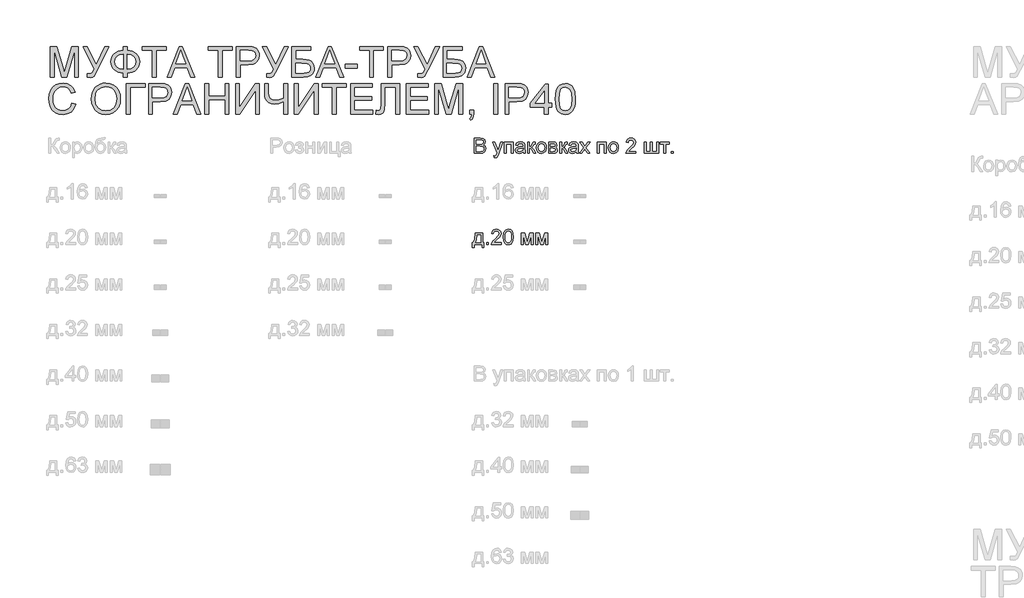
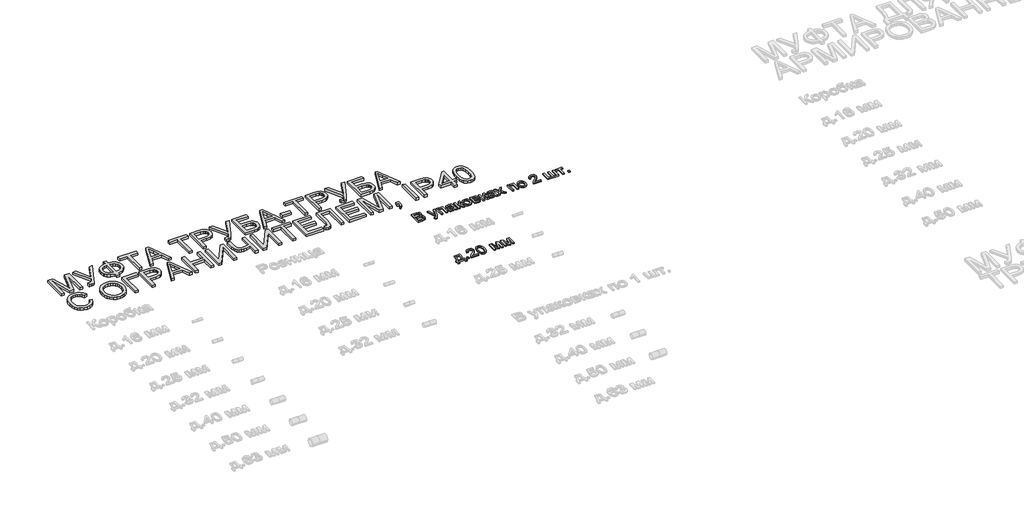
# One storey, part 86 of 98: 3 proxies.
"""IFC4 building model written with IfcOpenShell, lengths in millimetres."""

from ifc_helpers import new_model, si_unit, origin, origin_with_axes, place, context, project, spatial, polyline, outline, extrude, element, save

model = new_model("IFC4")

# Units and contexts
model_context = context("Model", 3, world=origin())
ifc_project = project(units=[si_unit("LENGTHUNIT", "METRE", prefix="MILLI")], contexts=[model_context])

# Site, building, storey
site = spatial("IfcSite", under=ifc_project)
building = spatial("IfcBuilding", under=site)
storey = spatial("IfcBuildingStorey", under=building, Name="Этаж 01", Elevation=0.0)

# Proxies
placement = place(None, origin())
element("IfcBuildingElementProxy", 1, Name="100", ObjectType="100", at=placement, inside=storey, context=model_context, shape_type="SweptSolid", body=[
    extrude(outline(polyline([(11149.7389883, -15339.5121665), (11149.7389883, -15239.0558563), (11188.0722922, -15239.0558563), (11206.8465367, -15242.011175), (11217.9320475, -15251.0978603), (11221.9419613, -15263.9492046), (11218.5697096, -15275.6846403), (11208.3793784, -15284.5751218), (11220.7524761, -15293.94385), (11225.081221, -15309.5665721), (11222.1259023, -15323.0678413), (11214.8050506, -15332.6818241), (11203.8789553, -15337.7831211), (11187.7779866, -15339.5121665), (11149.7389883, -15339.5121665)]), holes=[polyline([(11162.2960271, -15279.8662323), (11185.2273381, -15279.8662323), (11198.6182428, -15278.7871118), (11206.6748585, -15274.1395359), (11209.3849225, -15265.9602929), (11206.8587995, -15257.7687871), (11199.6237869, -15252.9250075), (11183.48603, -15251.6128951), (11162.2960271, -15251.6128951), (11162.2960271, -15279.8662323)]), polyline([(11162.2960271, -15326.9551277), (11188.0477668, -15326.9551277), (11197.367444, -15326.4646184), (11205.2523814, -15323.7300289), (11210.4763057, -15318.1504853), (11212.5241822, -15309.6891994), (11210.1206865, -15299.9280638), (11202.3338509, -15294.1032655), (11186.8214935, -15292.4232711), (11162.2960271, -15292.4232711), (11162.2960271, -15326.9551277)])]), origin_with_axes(), (0.0, 0.0, 1.0), 10.0),
    extrude(outline(polyline([(11280.0182656, -15367.7655037), (11278.4486357, -15355.6744488), (11284.825257, -15356.7780948), (11290.7849453, -15355.3924059), (11294.4392398, -15351.529645), (11297.8728051, -15342.2835442), (11298.8538237, -15339.2423863), (11272.1701163, -15265.7395637), (11285.4138682, -15265.7395637), (11299.5650622, -15306.6970925), (11304.494681, -15323.080104), (11309.4242997, -15308.6100789), (11323.9679013, -15265.7395637), (11337.1135512, -15265.7395637), (11311.435388, -15341.278), (11304.7644611, -15357.6610116), (11297.4803976, -15366.5147049), (11287.6947365, -15369.3351335), (11280.0182656, -15367.7655037)])), origin_with_axes(), (0.0, 0.0, 1.0), 10.0),
    extrude(outline(polyline([(11347.512349, -15265.7395637), (11404.0190234, -15265.7395637), (11404.0190234, -15339.5121665), (11391.4619846, -15339.5121665), (11391.4619846, -15278.2966025), (11360.0693877, -15278.2966025), (11360.0693877, -15339.5121665), (11347.512349, -15339.5121665), (11347.512349, -15265.7395637)])), origin_with_axes(), (0.0, 0.0, 1.0), 10.0),
    extrude(outline(polyline([(11469.9434769, -15330.0943874), (11457.7665829, -15338.6047242), (11444.3143646, -15341.0817963), (11433.8205307, -15339.5918742), (11426.0796804, -15335.122108), (11421.3064115, -15328.3346852), (11419.7153219, -15319.8917934), (11422.1188176, -15309.9589795), (11428.4341252, -15302.7484924), (11437.2265048, -15298.6282141), (11448.0912864, -15296.7397532), (11469.8699005, -15292.4232711), (11469.9434769, -15289.6273679), (11466.4853862, -15280.3567416), (11452.6039722, -15276.7269726), (11439.8997807, -15279.1427311), (11433.8419905, -15287.7143815), (11421.2849517, -15286.1447517), (11426.7173425, -15273.8820185), (11437.6557005, -15266.6960569), (11454.222653, -15264.1699338), (11469.4407049, -15266.4017513), (11478.0368808, -15272.0058203), (11481.8873791, -15280.5284199), (11482.5005157, -15291.5158288), (11482.5005157, -15307.1385509), (11483.1381778, -15328.9539532), (11485.6397754, -15339.5121665), (11473.0827366, -15339.5121665), (11469.9434769, -15330.0943874)]), holes=[polyline([(11469.9434769, -15304.9803098), (11449.6854417, -15308.8308081), (11438.8819738, -15310.8664218), (11433.9891433, -15314.1773597), (11432.2723606, -15319.0088766), (11436.0124943, -15325.8024308), (11446.9876404, -15328.5247575), (11459.691832, -15325.5203879), (11467.8833378, -15318.2485871), (11469.8699005, -15308.5365025), (11469.9434769, -15304.9803098)])]), origin_with_axes(), (0.0, 0.0, 1.0), 10.0),
    extrude(outline(polyline([(11499.766444, -15265.7395637), (11512.3234828, -15265.7395637), (11512.3234828, -15297.1321606), (11520.7357177, -15294.8758177), (11527.6273738, -15281.7301677), (11533.3540702, -15270.3871396), (11538.4063162, -15266.6960569), (11547.5911034, -15265.7395637), (11549.9945991, -15265.7395637), (11549.9945991, -15278.3701789), (11546.6100847, -15278.2966025), (11540.4787182, -15279.6209776), (11536.1622361, -15287.8860598), (11531.0977273, -15296.8255923), (11523.9976048, -15301.203388), (11531.9193304, -15306.0900872), (11539.6939032, -15316.3846517), (11553.1338588, -15339.5121665), (11538.8600374, -15339.5121665), (11525.6898619, -15316.875161), (11519.067986, -15307.2979664), (11512.3234828, -15304.9803098), (11512.3234828, -15339.5121665), (11499.766444, -15339.5121665), (11499.766444, -15265.7395637)])), origin_with_axes(), (0.0, 0.0, 1.0), 10.0),
    extrude(outline(polyline([(11557.8427483, -15302.6258651), (11560.5589437, -15284.8387706), (11568.7075299, -15272.3369141), (11578.7752339, -15266.2116789), (11590.8295006, -15264.1699338), (11604.0211358, -15266.656203), (11614.5578892, -15274.1150104), (11621.4648737, -15285.957745), (11623.7672019, -15301.5957955), (11619.6959744, -15323.9384953), (11607.8379115, -15336.5813732), (11590.8295006, -15341.0817963), (11577.4784498, -15338.6047242), (11566.9539591, -15331.1735079), (11560.120551, -15319.082453), (11557.8427483, -15302.6258651)]), holes=[polyline([(11570.3997871, -15302.6013396), (11571.852921, -15313.9658276), (11576.2123226, -15322.0622972), (11582.7728849, -15326.9091424), (11590.8295006, -15328.5247575), (11598.8493281, -15326.8999454), (11605.3976276, -15322.025509), (11609.7570292, -15313.8217405), (11611.2101631, -15302.2089321), (11609.7478322, -15291.175538), (11605.3608394, -15283.189433), (11598.8033428, -15278.3425877), (11590.8295006, -15276.7269726), (11582.7728849, -15278.3364563), (11576.2123226, -15283.1649075), (11571.852921, -15291.242983), (11570.3997871, -15302.6013396)])]), origin_with_axes(), (0.0, 0.0, 1.0), 10.0),
    extrude(outline(polyline([(11637.8938705, -15265.7395637), (11665.5585965, -15265.7395637), (11680.7275974, -15267.4195581), (11689.2624597, -15273.5754502), (11692.8309151, -15284.3053417), (11690.6726741, -15293.024145), (11684.1734255, -15299.2413507), (11692.6101859, -15306.0471676), (11695.9701748, -15317.8807051), (11693.8425906, -15327.4517684), (11688.7842131, -15334.1901403), (11680.7766484, -15338.1816599), (11669.8015022, -15339.5121665), (11637.8938705, -15339.5121665), (11637.8938705, -15265.7395637)]), holes=[polyline([(11650.4509092, -15293.9929009), (11662.8607952, -15293.9929009), (11673.1001774, -15293.3552388), (11678.0788471, -15290.8045903), (11680.2738763, -15286.1938026), (11676.4233781, -15280.0379106), (11663.2532027, -15278.2966025), (11650.4509092, -15278.2966025), (11650.4509092, -15293.9929009)]), polyline([(11650.4509092, -15326.9551277), (11665.8529021, -15326.9551277), (11679.5135869, -15324.6865221), (11683.413136, -15316.8506356), (11681.2671577, -15310.8051081), (11675.6753514, -15307.2857037), (11664.6266288, -15306.5499397), (11650.4509092, -15306.5499397), (11650.4509092, -15326.9551277)])]), origin_with_axes(), (0.0, 0.0, 1.0), 10.0),
    extrude(outline(polyline([(11711.6664732, -15265.7395637), (11724.223512, -15265.7395637), (11724.223512, -15297.1321606), (11732.635747, -15294.8758177), (11739.527403, -15281.7301677), (11745.2540994, -15270.3871396), (11750.3063455, -15266.6960569), (11759.4911326, -15265.7395637), (11761.8946283, -15265.7395637), (11761.8946283, -15278.3701789), (11758.510114, -15278.2966025), (11752.3787474, -15279.6209776), (11748.0622653, -15287.8860598), (11742.9977565, -15296.8255923), (11735.897634, -15301.203388), (11743.8193596, -15306.0900872), (11751.5939325, -15316.3846517), (11765.033888, -15339.5121665), (11750.7600666, -15339.5121665), (11737.5898912, -15316.875161), (11730.9680153, -15307.2979664), (11724.223512, -15304.9803098), (11724.223512, -15339.5121665), (11711.6664732, -15339.5121665), (11711.6664732, -15265.7395637)])), origin_with_axes(), (0.0, 0.0, 1.0), 10.0),
    extrude(outline(polyline([(11819.9709326, -15330.0943874), (11807.7940386, -15338.6047242), (11794.3418203, -15341.0817963), (11783.8479864, -15339.5918742), (11776.1071361, -15335.122108), (11771.3338672, -15328.3346852), (11769.7427775, -15319.8917934), (11772.1462733, -15309.9589795), (11778.4615808, -15302.7484924), (11787.2539605, -15298.6282141), (11798.1187421, -15296.7397532), (11819.8973562, -15292.4232711), (11819.9709326, -15289.6273679), (11816.5128419, -15280.3567416), (11802.6314279, -15276.7269726), (11789.9272364, -15279.1427311), (11783.8694462, -15287.7143815), (11771.3124074, -15286.1447517), (11776.7447982, -15273.8820185), (11787.6831562, -15266.6960569), (11804.2501087, -15264.1699338), (11819.4681606, -15266.4017513), (11828.0643365, -15272.0058203), (11831.9148347, -15280.5284199), (11832.5279714, -15291.5158288), (11832.5279714, -15307.1385509), (11833.1656335, -15328.9539532), (11835.6672311, -15339.5121665), (11823.1101923, -15339.5121665), (11819.9709326, -15330.0943874)]), holes=[polyline([(11819.9709326, -15304.9803098), (11799.7128974, -15308.8308081), (11788.9094295, -15310.8664218), (11784.016599, -15314.1773597), (11782.2998163, -15319.0088766), (11786.0399499, -15325.8024308), (11797.0150961, -15328.5247575), (11809.7192877, -15325.5203879), (11817.9107935, -15318.2485871), (11819.8973562, -15308.5365025), (11819.9709326, -15304.9803098)])]), origin_with_axes(), (0.0, 0.0, 1.0), 10.0),
    extrude(outline(polyline([(11841.9457505, -15339.5121665), (11868.7766107, -15302.4296613), (11843.5153803, -15265.7395637), (11858.6230676, -15265.7395637), (11870.8122244, -15283.3978995), (11876.5021325, -15291.736558), (11881.4317513, -15284.9184784), (11895.3131652, -15265.7395637), (11910.4208525, -15265.7395637), (11883.8842979, -15302.4296613), (11909.4398339, -15339.5121665), (11894.3321466, -15339.5121665), (11878.9546792, -15317.2185176), (11876.1342506, -15313.1472901), (11857.0534377, -15339.5121665), (11841.9457505, -15339.5121665)])), origin_with_axes(), (0.0, 0.0, 1.0), 10.0),
    extrude(outline(polyline([(11959.6679889, -15265.7395637), (12016.1746634, -15265.7395637), (12016.1746634, -15339.5121665), (12003.6176246, -15339.5121665), (12003.6176246, -15278.2966025), (11972.2250277, -15278.2966025), (11972.2250277, -15339.5121665), (11959.6679889, -15339.5121665), (11959.6679889, -15265.7395637)])), origin_with_axes(), (0.0, 0.0, 1.0), 10.0),
    extrude(outline(polyline([(12031.8709618, -15302.6258651), (12034.5871572, -15284.8387706), (12042.7357434, -15272.3369141), (12052.8034474, -15266.2116789), (12064.8577141, -15264.1699338), (12078.0493493, -15266.656203), (12088.5861028, -15274.1150104), (12095.4930872, -15285.957745), (12097.7954154, -15301.5957955), (12093.724188, -15323.9384953), (12081.866125, -15336.5813732), (12064.8577141, -15341.0817963), (12051.5066633, -15338.6047242), (12040.9821726, -15331.1735079), (12034.1487645, -15319.082453), (12031.8709618, -15302.6258651)]), holes=[polyline([(12044.4280006, -15302.6013396), (12045.8811345, -15313.9658276), (12050.2405361, -15322.0622972), (12056.8010984, -15326.9091424), (12064.8577141, -15328.5247575), (12072.8775416, -15326.8999454), (12079.4258411, -15322.025509), (12083.7852427, -15313.8217405), (12085.2383766, -15302.2089321), (12083.7760457, -15291.175538), (12079.3890529, -15283.189433), (12072.8315563, -15278.3425877), (12064.8577141, -15276.7269726), (12056.8010984, -15278.3364563), (12050.2405361, -15283.1649075), (12045.8811345, -15291.242983), (12044.4280006, -15302.6013396)])]), origin_with_axes(), (0.0, 0.0, 1.0), 10.0),
    extrude(outline(polyline([(12212.3783941, -15326.9551277), (12212.3783941, -15339.5121665), (12146.4539406, -15339.5121665), (12147.8028413, -15330.8546768), (12155.4302613, -15317.5250859), (12171.1510852, -15302.9692216), (12192.8315975, -15282.0489988), (12198.2517255, -15267.8242283), (12193.1381658, -15256.3095219), (12179.7840494, -15251.6128951), (12165.8658472, -15256.1991573), (12160.5806092, -15268.8788234), (12148.0235705, -15267.3091935), (12151.067794, -15255.1629563), (12157.649816, -15246.2908689), (12167.42628, -15240.8646095), (12180.0538295, -15239.0558563), (12192.7733495, -15241.0669445), (12202.5314194, -15247.1002093), (12208.7394281, -15256.1133182), (12210.8087643, -15267.0639389), (12208.5769469, -15278.9710528), (12201.1579933, -15291.2828369), (12183.1685637, -15308.4874515), (12168.7230641, -15320.5662437), (12163.0576813, -15326.9551277), (12212.3783941, -15326.9551277)])), origin_with_axes(), (0.0, 0.0, 1.0), 10.0),
    extrude(outline(polyline([(12267.3154388, -15265.7395637), (12279.8724775, -15265.7395637), (12279.8724775, -15326.9551277), (12308.1258148, -15326.9551277), (12308.1258148, -15265.7395637), (12320.6828535, -15265.7395637), (12320.6828535, -15326.9551277), (12348.9361908, -15326.9551277), (12348.9361908, -15265.7395637), (12361.4932295, -15265.7395637), (12361.4932295, -15339.5121665), (12267.3154388, -15339.5121665), (12267.3154388, -15265.7395637)])), origin_with_axes(), (0.0, 0.0, 1.0), 10.0),
    extrude(outline(polyline([(12372.4806384, -15265.7395637), (12432.1265726, -15265.7395637), (12432.1265726, -15278.2966025), (12408.5821249, -15278.2966025), (12408.5821249, -15339.5121665), (12396.0250861, -15339.5121665), (12396.0250861, -15278.2966025), (12372.4806384, -15278.2966025), (12372.4806384, -15265.7395637)])), origin_with_axes(), (0.0, 0.0, 1.0), 10.0),
    extrude(outline(polyline([(12446.2532412, -15339.5121665), (12446.2532412, -15326.9551277), (12458.81028, -15326.9551277), (12458.81028, -15339.5121665), (12446.2532412, -15339.5121665)])), origin_with_axes(), (0.0, 0.0, 1.0), 10.0),
])
element("IfcBuildingElementProxy", 2, Name="100", ObjectType="100", at=placement, inside=storey, context=model_context, shape_type="SweptSolid", body=[
    extrude(outline(polyline([(11156.3281893, -15865.7395637), (11203.4170847, -15865.7395637), (11203.4170847, -15926.9551277), (11212.8348638, -15926.9551277), (11212.8348638, -15959.9173545), (11200.277825, -15959.9173545), (11200.277825, -15939.5121665), (11148.4800401, -15939.5121665), (11148.4800401, -15959.9173545), (11135.9230013, -15959.9173545), (11135.9230013, -15926.9551277), (11143.7711505, -15926.9551277), (11153.4709725, -15903.0060098), (11156.3281893, -15865.7395637)]), holes=[polyline([(11167.3155982, -15878.2966025), (11164.3725423, -15906.905559), (11157.8978192, -15926.9551277), (11190.8600459, -15926.9551277), (11190.8600459, -15878.2966025), (11167.3155982, -15878.2966025)])]), origin_with_axes(), (0.0, 0.0, 1.0), 10.0),
    extrude(outline(polyline([(11230.1007921, -15939.5121665), (11230.1007921, -15926.9551277), (11242.6578308, -15926.9551277), (11242.6578308, -15939.5121665), (11230.1007921, -15939.5121665)])), origin_with_axes(), (0.0, 0.0, 1.0), 10.0),
    extrude(outline(polyline([(11327.4178425, -15926.9551277), (11327.4178425, -15939.5121665), (11261.493389, -15939.5121665), (11262.8422896, -15930.8546768), (11270.4697097, -15917.5250859), (11286.1905336, -15902.9692216), (11307.8710459, -15882.0489988), (11313.2911739, -15867.8242283), (11308.1776142, -15856.3095219), (11294.8234978, -15851.6128951), (11280.9052956, -15856.1991573), (11275.6200576, -15868.8788234), (11263.0630188, -15867.3091935), (11266.1072424, -15855.1629563), (11272.6892644, -15846.2908689), (11282.4657284, -15840.8646095), (11295.0932779, -15839.0558563), (11307.8127979, -15841.0669445), (11317.5708678, -15847.1002093), (11323.7788765, -15856.1133182), (11325.8482127, -15867.0639389), (11323.6163953, -15878.9710528), (11316.1974417, -15891.2828369), (11298.2080121, -15908.4874515), (11283.7625124, -15920.5662437), (11278.0971297, -15926.9551277), (11327.4178425, -15926.9551277)])), origin_with_axes(), (0.0, 0.0, 1.0), 10.0),
    extrude(outline(polyline([(11339.9748813, -15890.0933518), (11343.665964, -15861.1900897), (11354.6288474, -15844.5250353), (11372.9371081, -15839.0558563), (11387.6033369, -15842.2932179), (11397.7323545, -15851.6251578), (11403.6184665, -15866.4875904), (11405.8993348, -15890.0933518), (11402.2450404, -15918.8739865), (11391.3189451, -15935.5758291), (11383.0875855, -15939.7053045), (11372.9371081, -15941.0817963), (11359.88956, -15938.6905633), (11349.9812716, -15931.5168644), (11342.4764789, -15914.5268476), (11339.9748813, -15890.0933518)]), holes=[polyline([(11352.5319201, -15890.0688263), (11354.0034481, -15909.8210238), (11358.418032, -15921.2529568), (11364.990857, -15926.7068073), (11372.9371081, -15928.5247575), (11380.8833592, -15926.700676), (11387.4561841, -15921.2284313), (11391.8707681, -15909.7903669), (11393.3422961, -15890.0688263), (11391.919819, -15870.7611529), (11387.6523879, -15859.2403151), (11381.0918256, -15853.5197501), (11372.7899553, -15851.6128951), (11364.9295433, -15853.2928895), (11358.6142357, -15858.3328729), (11354.052499, -15870.5710806), (11352.5319201, -15890.0688263)])]), origin_with_axes(), (0.0, 0.0, 1.0), 10.0),
    extrude(outline(polyline([(11459.2667496, -15865.7395637), (11480.8736855, -15865.7395637), (11497.5264771, -15924.7968867), (11515.4791185, -15865.7395637), (11536.1786121, -15865.7395637), (11536.1786121, -15939.5121665), (11523.6215733, -15939.5121665), (11523.6215733, -15880.111487), (11505.5708301, -15939.5121665), (11489.0897167, -15939.5121665), (11471.8237884, -15877.2665329), (11471.8237884, -15939.5121665), (11459.2667496, -15939.5121665), (11459.2667496, -15865.7395637)])), origin_with_axes(), (0.0, 0.0, 1.0), 10.0),
    extrude(outline(polyline([(11555.0141702, -15865.7395637), (11576.6211061, -15865.7395637), (11593.2738977, -15924.7968867), (11611.2265391, -15865.7395637), (11631.9260327, -15865.7395637), (11631.9260327, -15939.5121665), (11619.3689939, -15939.5121665), (11619.3689939, -15880.111487), (11601.3182507, -15939.5121665), (11584.8371373, -15939.5121665), (11567.571209, -15877.2665329), (11567.571209, -15939.5121665), (11555.0141702, -15939.5121665), (11555.0141702, -15865.7395637)])), origin_with_axes(), (0.0, 0.0, 1.0), 10.0),
])
element("IfcBuildingElementProxy", 3, Name="200", ObjectType="200", at=placement, inside=storey, context=model_context, shape_type="SweptSolid", body=[
    extrude(outline(polyline([(8360.7263973, -14837.5373486), (8360.7263973, -14636.6247283), (8403.940269, -14636.6247283), (8445.0449506, -14778.234771), (8453.3345582, -14807.8124834), (8462.3108789, -14775.7822244), (8502.7288474, -14636.6247283), (8545.9427191, -14636.6247283), (8545.9427191, -14837.5373486), (8520.8286416, -14837.5373486), (8520.8286416, -14661.7388059), (8470.3552318, -14837.5373486), (8436.3138845, -14837.5373486), (8385.8404748, -14661.7388059), (8385.8404748, -14837.5373486), (8360.7263973, -14837.5373486)])), origin_with_axes(), (0.0, 0.0, 1.0), 20.0),
    extrude(outline(polyline([(8575.7656862, -14636.6247283), (8603.577565, -14636.6247283), (8663.6649576, -14755.622291), (8717.7190854, -14636.6247283), (8745.2857096, -14636.6247283), (8669.0115092, -14793.1462545), (8648.2629647, -14831.6021858), (8638.41599, -14838.4080027), (8625.0618735, -14840.6766083), (8602.4493936, -14837.5373486), (8602.4493936, -14815.5625308), (8622.2169194, -14815.5625308), (8636.8831483, -14809.9707244), (8650.4702567, -14784.5132904), (8575.7656862, -14636.6247283)])), origin_with_axes(), (0.0, 0.0, 1.0), 20.0),
    extrude(outline(polyline([(8841.0331302, -14661.7388059), (8841.0331302, -14636.6247283), (8866.1472077, -14636.6247283), (8866.1472077, -14661.7388059), (8899.9862199, -14668.53236), (8925.8667183, -14684.7927442), (8942.2926493, -14708.3494546), (8947.7679597, -14737.0319875), (8942.4643276, -14765.2485366), (8926.5534313, -14788.8788234), (8914.8225942, -14798.3517848), (8900.8446112, -14805.4335132), (8866.1472077, -14812.4232711), (8866.1472077, -14837.5373486), (8841.0331302, -14837.5373486), (8841.0331302, -14812.4232711), (8808.9415575, -14806.3102986), (8782.7115712, -14790.7182334), (8772.5181743, -14779.7384886), (8765.2371764, -14767.1308661), (8759.4123782, -14737.0319875), (8765.2187823, -14706.8411385), (8772.4767875, -14694.2657056), (8782.6379948, -14683.3702672), (8808.849587, -14667.9069606), (8841.0331302, -14661.7388059)]), holes=[polyline([(8841.0331302, -14686.8528834), (8818.1815269, -14690.8750599), (8800.1491778, -14700.8814501), (8788.4321362, -14716.4305958), (8784.5264557, -14737.0810385), (8788.3830853, -14757.578197), (8799.952974, -14773.1579995), (8817.9362722, -14783.2563602), (8841.0331302, -14787.3091935), (8841.0331302, -14686.8528834)]), polyline([(8866.1472077, -14686.8528834), (8866.1472077, -14787.3091935), (8889.6426045, -14783.1582584), (8907.5461949, -14773.0598976), (8918.8769603, -14757.529146), (8922.6538822, -14737.0810385), (8918.9444054, -14716.9088424), (8907.815975, -14701.4210104), (8889.9798296, -14691.2061537), (8866.1472077, -14686.8528834)])]), origin_with_axes(), (0.0, 0.0, 1.0), 20.0),
    extrude(outline(polyline([(9032.5279714, -14837.5373486), (9032.5279714, -14661.7388059), (8966.6035179, -14661.7388059), (8966.6035179, -14636.6247283), (9123.5665025, -14636.6247283), (9123.5665025, -14661.7388059), (9057.6420489, -14661.7388059), (9057.6420489, -14837.5373486), (9032.5279714, -14837.5373486)])), origin_with_axes(), (0.0, 0.0, 1.0), 20.0),
    extrude(outline(polyline([(9128.4225448, -14837.5373486), (9208.6208198, -14636.6247283), (9230.0070264, -14636.6247283), (9310.2053014, -14837.5373486), (9283.6687468, -14837.5373486), (9260.6638593, -14774.7521548), (9177.9149359, -14774.7521548), (9154.9590994, -14837.5373486), (9128.4225448, -14837.5373486)]), holes=[polyline([(9187.1365112, -14749.6380772), (9251.4913349, -14749.6380772), (9233.3915408, -14700.243788), (9219.3139231, -14661.7388059), (9206.8059352, -14695.9273059), (9187.1365112, -14749.6380772)])]), origin_with_axes(), (0.0, 0.0, 1.0), 20.0),
    extrude(outline(polyline([(9465.7458089, -14837.5373486), (9465.7458089, -14661.7388059), (9399.8213554, -14661.7388059), (9399.8213554, -14636.6247283), (9556.78434, -14636.6247283), (9556.78434, -14661.7388059), (9490.8598864, -14661.7388059), (9490.8598864, -14837.5373486), (9465.7458089, -14837.5373486)])), origin_with_axes(), (0.0, 0.0, 1.0), 20.0),
    extrude(outline(polyline([(9585.0376772, -14837.5373486), (9585.0376772, -14636.6247283), (9659.496993, -14636.6247283), (9689.5161638, -14638.5377147), (9713.9190029, -14647.9309683), (9722.7910903, -14656.2573641), (9729.7379287, -14667.3551376), (9734.226089, -14680.4456053), (9735.7221424, -14694.7500836), (9731.6815719, -14718.4294213), (9719.5598601, -14738.160159), (9709.852374, -14745.9286004), (9696.8921978, -14751.4774872), (9661.2137757, -14755.9165966), (9610.1517548, -14755.9165966), (9610.1517548, -14837.5373486), (9585.0376772, -14837.5373486)]), holes=[polyline([(9610.1517548, -14730.8025191), (9662.6853037, -14730.8025191), (9684.9544271, -14728.4971252), (9699.6697069, -14721.5809437), (9707.8734754, -14710.4831702), (9710.6080649, -14695.6330003), (9708.9955155, -14684.3512858), (9704.1578673, -14674.8354049), (9696.6959941, -14667.6739687), (9687.21077, -14663.4555885), (9662.0966925, -14661.7388059), (9610.1517548, -14661.7388059), (9610.1517548, -14730.8025191)])]), origin_with_axes(), (0.0, 0.0, 1.0), 20.0),
    extrude(outline(polyline([(9756.1273304, -14636.6247283), (9783.9392093, -14636.6247283), (9844.0266018, -14755.622291), (9898.0807296, -14636.6247283), (9925.6473538, -14636.6247283), (9849.3731535, -14793.1462545), (9828.624609, -14831.6021858), (9818.7776342, -14838.4080027), (9805.4235178, -14840.6766083), (9782.8110378, -14837.5373486), (9782.8110378, -14815.5625308), (9802.5785637, -14815.5625308), (9817.2447926, -14809.9707244), (9830.8319009, -14784.5132904), (9756.1273304, -14636.6247283)])), origin_with_axes(), (0.0, 0.0, 1.0), 20.0),
    extrude(outline(polyline([(9949.1918015, -14636.6247283), (10074.7621892, -14636.6247283), (10074.7621892, -14661.7388059), (9974.305879, -14661.7388059), (9974.305879, -14721.38474), (10021.3457235, -14721.38474), (10044.7307557, -14722.6600643), (10062.7937616, -14726.486037), (10076.6629128, -14733.8559396), (10087.4663808, -14745.7630535), (10094.4193505, -14761.09147), (10096.737007, -14778.7252803), (10095.0876694, -14793.5325306), (10090.1396566, -14807.3464995), (10081.917494, -14819.4436858), (10070.4457071, -14829.1005882), (10052.7505831, -14835.4281585), (10025.8584093, -14837.5373486), (9949.1918015, -14837.5373486), (9949.1918015, -14636.6247283)]), holes=[polyline([(9974.305879, -14812.4232711), (10028.1147522, -14812.4232711), (10047.1342514, -14810.3508692), (10060.7336224, -14804.1336635), (10068.9006027, -14793.7716539), (10071.6229295, -14779.2648406), (10070.0655624, -14768.4613727), (10065.3934611, -14759.5954166), (10057.9438506, -14753.0225916), (10048.0539563, -14749.098517), (10010.2111618, -14746.4988175), (9974.305879, -14746.4988175), (9974.305879, -14812.4232711)])]), origin_with_axes(), (0.0, 0.0, 1.0), 20.0),
    extrude(outline(polyline([(10107.8715688, -14837.5373486), (10188.0698437, -14636.6247283), (10209.4560504, -14636.6247283), (10289.6543253, -14837.5373486), (10263.1177707, -14837.5373486), (10240.1128833, -14774.7521548), (10157.3639598, -14774.7521548), (10134.4081233, -14837.5373486), (10107.8715688, -14837.5373486)]), holes=[polyline([(10166.5855352, -14749.6380772), (10230.9403589, -14749.6380772), (10212.8405647, -14700.243788), (10198.762947, -14661.7388059), (10186.2549592, -14695.9273059), (10166.5855352, -14749.6380772)])]), origin_with_axes(), (0.0, 0.0, 1.0), 20.0),
    extrude(outline(polyline([(10300.788887, -14777.8914145), (10300.788887, -14752.7773369), (10379.2703793, -14752.7773369), (10379.2703793, -14777.8914145), (10300.788887, -14777.8914145)])), origin_with_axes(), (0.0, 0.0, 1.0), 20.0),
    extrude(outline(polyline([(10460.8911313, -14837.5373486), (10460.8911313, -14661.7388059), (10394.9666778, -14661.7388059), (10394.9666778, -14636.6247283), (10551.9296624, -14636.6247283), (10551.9296624, -14661.7388059), (10486.0052089, -14661.7388059), (10486.0052089, -14837.5373486), (10460.8911313, -14837.5373486)])), origin_with_axes(), (0.0, 0.0, 1.0), 20.0),
    extrude(outline(polyline([(10580.1829996, -14837.5373486), (10580.1829996, -14636.6247283), (10654.6423155, -14636.6247283), (10684.6614863, -14638.5377147), (10709.0643253, -14647.9309683), (10717.9364127, -14656.2573641), (10724.8832511, -14667.3551376), (10729.3714114, -14680.4456053), (10730.8674649, -14694.7500836), (10726.8268943, -14718.4294213), (10714.7051825, -14738.160159), (10704.9976964, -14745.9286004), (10692.0375203, -14751.4774872), (10656.3590981, -14755.9165966), (10605.2970772, -14755.9165966), (10605.2970772, -14837.5373486), (10580.1829996, -14837.5373486)]), holes=[polyline([(10605.2970772, -14730.8025191), (10657.8306261, -14730.8025191), (10680.0997495, -14728.4971252), (10694.8150293, -14721.5809437), (10703.0187978, -14710.4831702), (10705.7533873, -14695.6330003), (10704.1408379, -14684.3512858), (10699.3031897, -14674.8354049), (10691.8413165, -14667.6739687), (10682.3560924, -14663.4555885), (10657.2420149, -14661.7388059), (10605.2970772, -14661.7388059), (10605.2970772, -14730.8025191)])]), origin_with_axes(), (0.0, 0.0, 1.0), 20.0),
    extrude(outline(polyline([(10751.2726529, -14636.6247283), (10779.0845317, -14636.6247283), (10839.1719242, -14755.622291), (10893.2260521, -14636.6247283), (10920.7926762, -14636.6247283), (10844.5184759, -14793.1462545), (10823.7699314, -14831.6021858), (10813.9229566, -14838.4080027), (10800.5688402, -14840.6766083), (10777.9563602, -14837.5373486), (10777.9563602, -14815.5625308), (10797.7238861, -14815.5625308), (10812.390115, -14809.9707244), (10825.9772233, -14784.5132904), (10751.2726529, -14636.6247283)])), origin_with_axes(), (0.0, 0.0, 1.0), 20.0),
    extrude(outline(polyline([(10944.3371239, -14636.6247283), (11069.9075116, -14636.6247283), (11069.9075116, -14661.7388059), (10969.4512015, -14661.7388059), (10969.4512015, -14721.38474), (11016.4910459, -14721.38474), (11039.8760781, -14722.6600643), (11057.939084, -14726.486037), (11071.8082353, -14733.8559396), (11082.6117032, -14745.7630535), (11089.5646729, -14761.09147), (11091.8823295, -14778.7252803), (11090.2329918, -14793.5325306), (11085.284979, -14807.3464995), (11077.0628164, -14819.4436858), (11065.5910295, -14829.1005882), (11047.8959056, -14835.4281585), (11021.0037317, -14837.5373486), (10944.3371239, -14837.5373486), (10944.3371239, -14636.6247283)]), holes=[polyline([(10969.4512015, -14812.4232711), (11023.2600746, -14812.4232711), (11042.2795738, -14810.3508692), (11055.8789449, -14804.1336635), (11064.0459252, -14793.7716539), (11066.7682519, -14779.2648406), (11065.2108848, -14768.4613727), (11060.5387835, -14759.5954166), (11053.0891731, -14753.0225916), (11043.1992788, -14749.098517), (11005.3564842, -14746.4988175), (10969.4512015, -14746.4988175), (10969.4512015, -14812.4232711)])]), origin_with_axes(), (0.0, 0.0, 1.0), 20.0),
    extrude(outline(polyline([(11103.0168912, -14837.5373486), (11183.2151661, -14636.6247283), (11204.6013728, -14636.6247283), (11284.7996477, -14837.5373486), (11258.2630931, -14837.5373486), (11235.2582057, -14774.7521548), (11152.5092823, -14774.7521548), (11129.5534458, -14837.5373486), (11103.0168912, -14837.5373486)]), holes=[polyline([(11161.7308576, -14749.6380772), (11226.0856813, -14749.6380772), (11207.9858871, -14700.243788), (11193.9082695, -14661.7388059), (11181.4002816, -14695.9273059), (11161.7308576, -14749.6380772)])]), origin_with_axes(), (0.0, 0.0, 1.0), 20.0),
    extrude(outline(polyline([(8501.9930834, -15010.0688263), (8527.107161, -15016.5435494), (8515.5188781, -15045.8085621), (8497.3332448, -15067.1886374), (8473.4454406, -15080.2668424), (8444.750645, -15084.626244), (8415.6205223, -15081.3275688), (8392.4868762, -15071.4315431), (8374.754964, -15055.2815235), (8361.8300433, -15033.2208665), (8353.9389745, -15007.2851859), (8351.3086182, -14979.5100952), (8354.282331, -14950.2144257), (8363.2034694, -14924.9164072), (8377.6060495, -14904.4192487), (8397.0240875, -14889.5261592), (8420.0535004, -14880.457868), (8445.2902052, -14877.4351043), (8472.8261726, -14881.3469162), (8495.5919367, -14893.0823518), (8512.8762591, -14911.91791), (8523.9679013, -14937.1300894), (8498.8538237, -14943.1143032), (8490.1472832, -14924.7999112), (8478.252432, -14912.2367411), (8463.0221174, -14904.9710717), (8444.3091866, -14902.5491818), (8422.7390389, -14905.2347204), (8405.0193895, -14913.2913361), (8391.5733026, -14925.8729003), (8382.8238424, -14942.1332845), (8378.0229824, -14960.5151216), (8376.4226957, -14979.4610443), (8378.317288, -15002.6621355), (8384.0010648, -15022.7239669), (8393.688624, -15038.8801179), (8407.5945635, -15050.3641675), (8424.2657492, -15057.2251667), (8442.2490474, -15059.5121665), (8463.2121898, -15056.3974322), (8480.6804532, -15047.0532296), (8493.8690227, -15031.5776603), (8501.9930834, -15010.0688263)])), origin_with_axes(), (0.0, 0.0, 1.0), 20.0),
    extrude(outline(polyline([(8630.7027308, -14983.6794245), (8632.3765939, -14960.113517), (8637.3981831, -14939.2515422), (8645.7674985, -14921.0935001), (8657.48454, -14905.6393906), (8671.8472663, -14893.3000154), (8688.1536357, -14884.4861759), (8706.4036484, -14879.1978722), (8726.5973042, -14877.4351043), (8752.9499178, -14880.7460423), (8776.5802046, -14890.6788561), (8796.2005777, -14906.5345701), (8810.52345, -14927.6142085), (8819.2790415, -14952.8999643), (8822.197572, -14981.3740307), (8819.1257574, -15010.2282418), (8809.9103134, -15035.8696169), (8795.0601435, -15056.9860434), (8775.0841512, -15072.265409), (8751.6561994, -15081.5360352), (8726.4501514, -15084.626244), (8699.6928676, -15081.2110728), (8675.9276907, -15070.9655592), (8656.3563686, -15054.8155397), (8642.180649, -15033.6868504), (8633.5722104, -15009.3759819), (8630.7027308, -14983.6794245)]), holes=[polyline([(8655.8168083, -14983.9246792), (8660.8383976, -15015.3540643), (8675.9031653, -15039.3031822), (8698.5463021, -15054.4599204), (8726.3029986, -15059.5121665), (8754.4643653, -15054.4108695), (8777.1442903, -15039.1069785), (8785.8676922, -15027.834461), (8792.0986934, -15014.4220966), (8797.0834945, -14981.177827), (8794.9497789, -14958.9454917), (8788.5486322, -14939.7297888), (8778.0456012, -14924.0150963), (8763.6062329, -14912.285792), (8746.1870204, -14904.9833344), (8726.744457, -14902.5491818), (8699.7296558, -14907.2396773), (8676.7615566, -14921.3111636), (8667.5982292, -14932.2602515), (8661.0529954, -14946.3455334), (8655.8168083, -14983.9246792)])]), origin_with_axes(), (0.0, 0.0, 1.0), 20.0),
    extrude(outline(polyline([(8859.8686883, -14880.574364), (8985.439076, -14880.574364), (8985.439076, -14905.6884415), (8884.9827659, -14905.6884415), (8884.9827659, -15081.4869843), (8859.8686883, -15081.4869843), (8859.8686883, -14880.574364)])), origin_with_axes(), (0.0, 0.0, 1.0), 20.0),
    extrude(outline(polyline([(9007.4138939, -15081.4869843), (9007.4138939, -14880.574364), (9081.8732097, -14880.574364), (9111.8923805, -14882.4873504), (9136.2952195, -14891.880604), (9145.1673069, -14900.2069998), (9152.1141453, -14911.3047733), (9156.6023056, -14924.395241), (9158.0983591, -14938.6997192), (9154.0577885, -14962.379057), (9141.9360768, -14982.1097947), (9132.2285906, -14989.8782361), (9119.2684145, -14995.4271229), (9083.5899923, -14999.8662323), (9032.5279714, -14999.8662323), (9032.5279714, -15081.4869843), (9007.4138939, -15081.4869843)]), holes=[polyline([(9032.5279714, -14974.7521548), (9085.0615203, -14974.7521548), (9107.3306437, -14972.4467609), (9122.0459236, -14965.5305794), (9130.249692, -14954.4328059), (9132.9842815, -14939.582636), (9131.3717321, -14928.3009215), (9126.5340839, -14918.7850406), (9119.0722108, -14911.6236044), (9109.5869866, -14907.4052242), (9084.4729091, -14905.6884415), (9032.5279714, -14905.6884415), (9032.5279714, -14974.7521548)])]), origin_with_axes(), (0.0, 0.0, 1.0), 20.0),
    extrude(outline(polyline([(9169.2329208, -15081.4869843), (9249.4311957, -14880.574364), (9270.8174024, -14880.574364), (9351.0156773, -15081.4869843), (9324.4791228, -15081.4869843), (9301.4742353, -15018.7017905), (9218.7253119, -15018.7017905), (9195.7694754, -15081.4869843), (9169.2329208, -15081.4869843)]), holes=[polyline([(9227.9468872, -14993.5877129), (9292.3017109, -14993.5877129), (9274.2019168, -14944.1934237), (9260.1242991, -14905.6884415), (9247.6163112, -14939.8769416), (9227.9468872, -14993.5877129)])]), origin_with_axes(), (0.0, 0.0, 1.0), 20.0),
    extrude(outline(polyline([(9377.8465375, -15081.4869843), (9377.8465375, -14880.574364), (9402.9606151, -14880.574364), (9402.9606151, -14962.195116), (9509.6954446, -14962.195116), (9509.6954446, -14880.574364), (9534.8095221, -14880.574364), (9534.8095221, -15081.4869843), (9509.6954446, -15081.4869843), (9509.6954446, -14987.3091935), (9402.9606151, -14987.3091935), (9402.9606151, -15081.4869843), (9377.8465375, -15081.4869843)])), origin_with_axes(), (0.0, 0.0, 1.0), 20.0),
    extrude(outline(polyline([(9578.7591578, -14880.574364), (9603.8732354, -14880.574364), (9603.8732354, -15039.6955897), (9709.0384351, -14880.574364), (9735.7221424, -14880.574364), (9735.7221424, -15081.4869843), (9710.6080649, -15081.4869843), (9710.6080649, -14922.8072171), (9605.6881199, -15081.4869843), (9578.7591578, -15081.4869843), (9578.7591578, -14880.574364)])), origin_with_axes(), (0.0, 0.0, 1.0), 20.0),
    extrude(outline(polyline([(9920.9384643, -15081.4869843), (9895.8243867, -15081.4869843), (9895.8243867, -15001.0434547), (9862.5188034, -15011.9327617), (9833.6278041, -15015.5625308), (9814.0503506, -15013.0793273), (9796.913181, -15005.6297169), (9783.6326409, -14994.3602651), (9775.6250762, -14980.4175375), (9771.5967683, -14962.7775958), (9770.2539991, -14940.4165019), (9770.2539991, -14880.574364), (9795.3680766, -14880.574364), (9795.3680766, -14937.0319875), (9798.384709, -14964.1878101), (9807.434606, -14980.1232319), (9820.7151461, -14987.8671479), (9836.4237073, -14990.4484532), (9865.4005457, -14987.333719), (9895.8243867, -14977.9895163), (9895.8243867, -14880.574364), (9920.9384643, -14880.574364), (9920.9384643, -15081.4869843)])), origin_with_axes(), (0.0, 0.0, 1.0), 20.0),
    extrude(outline(polyline([(9964.8881, -14880.574364), (9990.0021775, -14880.574364), (9990.0021775, -15039.6955897), (10095.1673772, -14880.574364), (10121.8510846, -14880.574364), (10121.8510846, -15081.4869843), (10096.737007, -15081.4869843), (10096.737007, -14922.8072171), (9991.817062, -15081.4869843), (9964.8881, -15081.4869843), (9964.8881, -14880.574364)])), origin_with_axes(), (0.0, 0.0, 1.0), 20.0),
    extrude(outline(polyline([(10216.0288753, -15081.4869843), (10216.0288753, -14905.6884415), (10150.1044218, -14905.6884415), (10150.1044218, -14880.574364), (10307.0674064, -14880.574364), (10307.0674064, -14905.6884415), (10241.1429529, -14905.6884415), (10241.1429529, -15081.4869843), (10216.0288753, -15081.4869843)])), origin_with_axes(), (0.0, 0.0, 1.0), 20.0),
    extrude(outline(polyline([(10335.3207436, -15081.4869843), (10335.3207436, -14880.574364), (10479.7266895, -14880.574364), (10479.7266895, -14905.6884415), (10360.4348212, -14905.6884415), (10360.4348212, -14965.3343757), (10473.4481701, -14965.3343757), (10473.4481701, -14990.4484532), (10360.4348212, -14990.4484532), (10360.4348212, -15056.3729068), (10482.8659492, -15056.3729068), (10482.8659492, -15081.4869843), (10335.3207436, -15081.4869843)])), origin_with_axes(), (0.0, 0.0, 1.0), 20.0),
    extrude(outline(polyline([(10536.2333639, -14880.574364), (10658.6644919, -14880.574364), (10658.6644919, -15081.4869843), (10633.5504144, -15081.4869843), (10633.5504144, -14905.6884415), (10561.3474415, -14905.6884415), (10561.3474415, -15008.2048909), (10558.428911, -15053.9448856), (10553.9100938, -15066.8698064), (10546.1907033, -15076.5573656), (10535.6202273, -15082.6090244), (10522.5481537, -15084.626244), (10501.7015073, -15081.4869843), (10504.840767, -15056.3729068), (10516.8582455, -15059.5121665), (10525.3501883, -15057.8260406), (10531.4018471, -15052.7676632), (10535.0254847, -15041.4552919), (10536.2333639, -15021.0071843), (10536.2333639, -14880.574364)])), origin_with_axes(), (0.0, 0.0, 1.0), 20.0),
    extrude(outline(polyline([(10702.6141276, -15081.4869843), (10702.6141276, -14880.574364), (10847.0200735, -14880.574364), (10847.0200735, -14905.6884415), (10727.7282052, -14905.6884415), (10727.7282052, -14965.3343757), (10840.7415541, -14965.3343757), (10840.7415541, -14990.4484532), (10727.7282052, -14990.4484532), (10727.7282052, -15056.3729068), (10850.1593332, -15056.3729068), (10850.1593332, -15081.4869843), (10702.6141276, -15081.4869843)])), origin_with_axes(), (0.0, 0.0, 1.0), 20.0),
    extrude(outline(polyline([(10887.8304495, -15081.4869843), (10887.8304495, -14880.574364), (10931.0443212, -14880.574364), (10972.1490028, -15022.1844067), (10980.4386104, -15051.7621191), (10989.4149311, -15019.73186), (11029.8328996, -14880.574364), (11073.0467713, -14880.574364), (11073.0467713, -15081.4869843), (11047.9326938, -15081.4869843), (11047.9326938, -14905.6884415), (10997.459284, -15081.4869843), (10963.4179367, -15081.4869843), (10912.944527, -14905.6884415), (10912.944527, -15081.4869843), (10887.8304495, -15081.4869843)])), origin_with_axes(), (0.0, 0.0, 1.0), 20.0),
    extrude(outline(polyline([(11120.1356667, -15081.4869843), (11120.1356667, -15056.3729068), (11145.2497442, -15056.3729068), (11145.2497442, -15081.4869843), (11140.7370584, -15107.1651476), (11134.8999974, -15115.8410313), (11126.4141861, -15122.2973603), (11120.1356667, -15112.8795812), (11129.357242, -15102.0393251), (11132.6436545, -15081.4869843), (11120.1356667, -15081.4869843)])), origin_with_axes(), (0.0, 0.0, 1.0), 20.0),
    extrude(outline(polyline([(11277.0986513, -15081.4869843), (11277.0986513, -14880.574364), (11302.2127288, -14880.574364), (11302.2127288, -15081.4869843), (11277.0986513, -15081.4869843)])), origin_with_axes(), (0.0, 0.0, 1.0), 20.0),
    extrude(outline(polyline([(11352.4408839, -15081.4869843), (11352.4408839, -14880.574364), (11426.9001997, -14880.574364), (11456.9193705, -14882.4873504), (11481.3222096, -14891.880604), (11490.194297, -14900.2069998), (11497.1411353, -14911.3047733), (11501.6292957, -14924.395241), (11503.1253491, -14938.6997192), (11499.0847786, -14962.379057), (11486.9630668, -14982.1097947), (11477.2555807, -14989.8782361), (11464.2954045, -14995.4271229), (11428.6169824, -14999.8662323), (11377.5549614, -14999.8662323), (11377.5549614, -15081.4869843), (11352.4408839, -15081.4869843)]), holes=[polyline([(11377.5549614, -14974.7521548), (11430.0885104, -14974.7521548), (11452.3576338, -14972.4467609), (11467.0729136, -14965.5305794), (11475.2766821, -14954.4328059), (11478.0112716, -14939.582636), (11476.3987222, -14928.3009215), (11471.5610739, -14918.7850406), (11464.0992008, -14911.6236044), (11454.6139767, -14907.4052242), (11429.4998992, -14905.6884415), (11377.5549614, -14905.6884415), (11377.5549614, -14974.7521548)])]), origin_with_axes(), (0.0, 0.0, 1.0), 20.0),
    extrude(outline(polyline([(11609.8601787, -15081.4869843), (11609.8601787, -15034.3980889), (11518.8216476, -15034.3980889), (11518.8216476, -15009.2840114), (11616.1386981, -14883.7136237), (11634.9742562, -14883.7136237), (11634.9742562, -15009.2840114), (11660.0883337, -15009.2840114), (11660.0883337, -15034.3980889), (11634.9742562, -15034.3980889), (11634.9742562, -15081.4869843), (11609.8601787, -15081.4869843)]), holes=[polyline([(11609.8601787, -15009.2840114), (11609.8601787, -14931.6854359), (11549.7237352, -15009.2840114), (11609.8601787, -15009.2840114)])]), origin_with_axes(), (0.0, 0.0, 1.0), 20.0),
    extrude(outline(polyline([(11682.0631516, -14982.6493549), (11683.9086929, -14950.4903372), (11689.445317, -14924.8428308), (11698.6178414, -14905.3144282), (11711.3710839, -14891.512722), (11727.797015, -14883.3089535), (11747.9876051, -14880.574364), (11763.4631744, -14882.1930448), (11777.3200629, -14887.0490871), (11788.9083457, -14894.9524186), (11797.5780981, -14905.712967), (11809.3503219, -14935.4378322), (11813.9120587, -14982.6493549), (11812.0849114, -15014.6244317), (11806.6034697, -15040.2106244), (11797.4861276, -15059.7574211), (11784.7512792, -15073.6143096), (11768.2885599, -15081.8732604), (11747.9876051, -15084.626244), (11721.8925089, -15079.8437781), (11702.0759321, -15065.4963802), (11693.3203406, -15050.3672332), (11687.0663467, -15031.5163466), (11682.0631516, -14982.6493549)]), holes=[polyline([(11707.1772291, -14982.600304), (11710.1202851, -15022.1046989), (11718.949453, -15044.9685649), (11732.0951029, -15055.8762661), (11747.9876051, -15059.5121665), (11763.8801073, -15055.8640033), (11777.0257573, -15044.919514), (11785.8549252, -15022.0433852), (11788.7979811, -14982.600304), (11785.953027, -14943.9849572), (11777.4181647, -14920.9432816), (11764.2970402, -14909.5021516), (11747.6932995, -14905.6884415), (11731.9724756, -14909.0484304), (11719.3418604, -14919.1283971), (11710.218387, -14943.6048125), (11707.1772291, -14982.600304)])]), origin_with_axes(), (0.0, 0.0, 1.0), 20.0),
])

save(model, "model.ifc")
